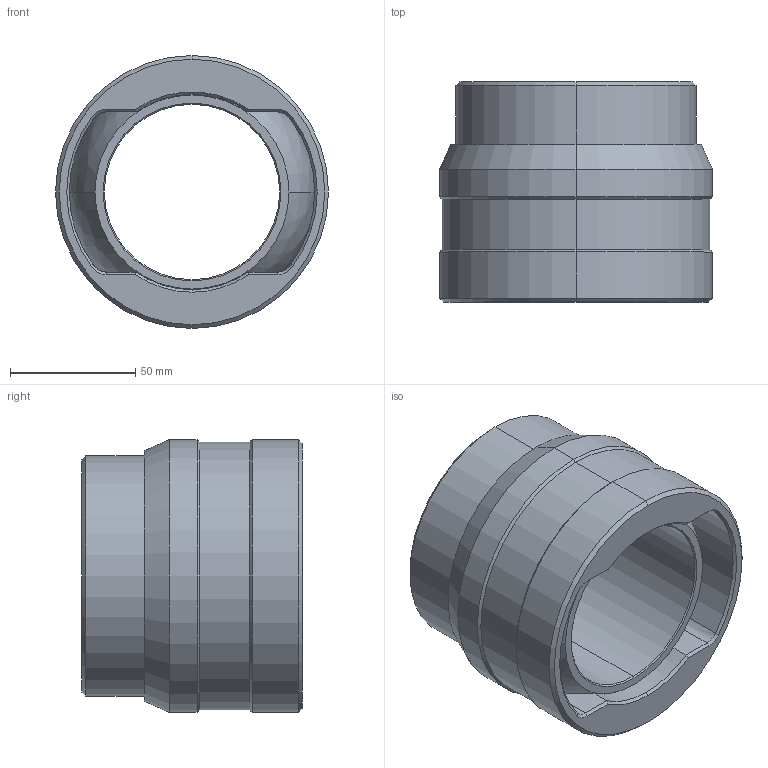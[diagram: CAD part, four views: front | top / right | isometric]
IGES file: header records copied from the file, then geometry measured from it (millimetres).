
Start section: 3D InterOp IGES (Version 20 0 1), Spatial Corp. Copyright (c) 1999-2007.
Global section: file name: 10.11.07.igs; native system: Spatial Corp.; preprocessor: 3D InterOp GENERIC/IGES 3.0; author: Noname; organization: Noname; date: 20111110.163615; units: metre
Bounding box: 109 x 88 x 109 mm (x, y, z)
Surface area: 93968.9 mm2 (no closed solid volume)
Topology: 0 solids, 0 shells, 70 faces, 992 edges, 1668 vertices
Faces by surface type: revolution 56, extrusion 14
